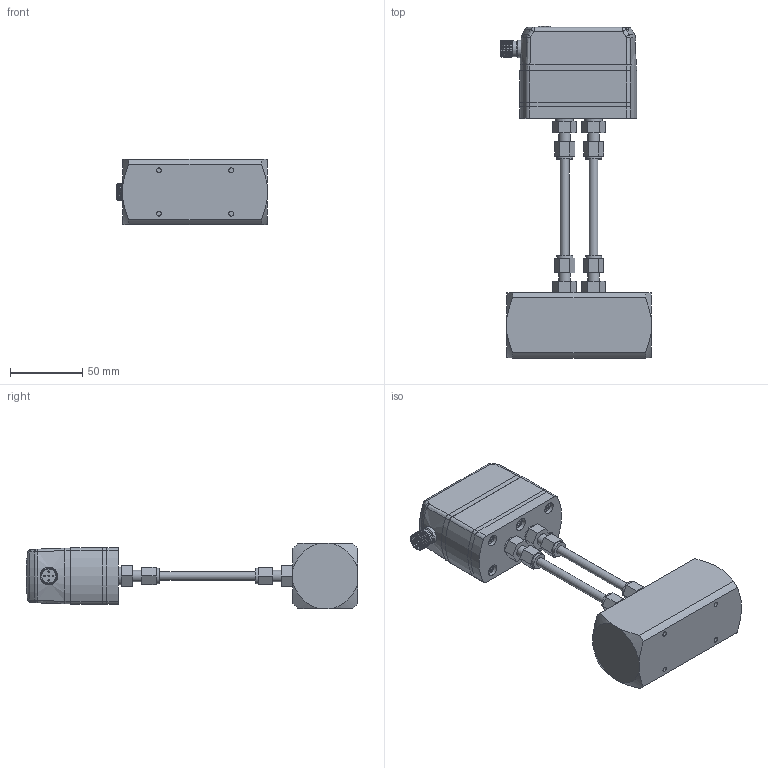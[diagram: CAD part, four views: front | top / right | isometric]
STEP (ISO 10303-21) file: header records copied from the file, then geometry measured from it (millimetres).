
FILE_DESCRIPTION( (''), '2;1');
FILE_NAME( 'QEKH_DN15_female-thread_high-temp.step', '2025-04-28T16:11:51+08:00', (''), (''), '', '', '');
FILE_SCHEMA (('AUTOMOTIVE_DESIGN { 1 0 10303 214 3 1 1 1 }'));
Products named in the file (1): QEKH DN15_female-thread_high-temp
Bounding box: 104.21 x 229.4 x 45 mm (x, y, z)
Volume: 407220.9 mm3; surface area: 105704.1 mm2
Topology: 30 solids, 33 shells, 1606 faces, 3948 edges, 2528 vertices
Faces by surface type: plane 805, cylinder 301, extrusion 239, cone 152, torus 52, bspline 48, sphere 9
Full cylindrical faces by diameter (mm): 1 x10, 2.05 x4, 2.6 x4, 2.7 x5, 2.874 x4, 3 x6, 3.1 x1, 3.3 x10, 3.5 x7, 3.838 x6, 4.5 x12, 5 x2, 5.5 x10, 6 x6, 7 x6, 8 x8, 9 x2, 9.8 x2, 10.8 x1, 11 x4, 11.992 x2, 12 x14, 14 x2, 14.5 x2, 17 x2, 19.1 x6
Entity records: 52889 total; most frequent: CARTESIAN_POINT 16739, ORIENTED_EDGE 7268, DIRECTION 6637, EDGE_CURVE 3634, VERTEX_POINT 2456, VECTOR 2239, AXIS2_PLACEMENT_3D 2199, EDGE_LOOP 2018
